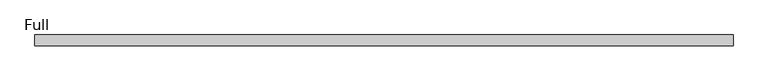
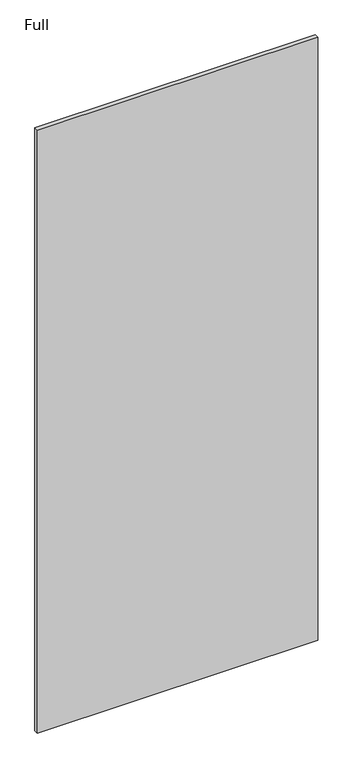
"""IFC4 building model written with IfcOpenShell, lengths in millimetres: proxy geometry, Panel-Fascia-Teknion-Altos-Standard : Full."""

from ifc_helpers import new_model, si_unit, frame, origin, place, context, project, spatial, polyline, outline, extrude, source, transform, mapped, element, save


def full_c2ac7fb8(model_context):
    return source(origin(), model_context, "Body", "SweptSolid", [
        extrude(outline(polyline([(624.8300781, -9.525), (-624.8300781, -9.525), (-624.8300781, 9.525), (624.8300781, 9.525), (624.8300781, -9.525)])), frame((0.0, 0.0, 3.175), z_axis=(0.0, 0.0, 1.0), x_axis=(1.0, 0.0, 0.0)), (0.0, 0.0, 1.0), 2840.736),
    ])


if __name__ == "__main__":
    model = new_model("IFC4")
    model_context = context("Model", 3, world=origin())
    ifc_project = project(units=[si_unit("LENGTHUNIT", "METRE", prefix="MILLI")], contexts=[model_context])
    site = spatial("IfcSite", under=ifc_project)
    building = spatial("IfcBuilding", under=site)
    placement = place(None, origin())
    full_shape = full_c2ac7fb8(model_context)
    element("IfcBuildingElementProxy", 1, Name="Panel-Fascia-Teknion-Altos-Standard : Full", ObjectType="Panel-Fascia-Teknion-Altos-Standard : Full", at=placement, inside=building, context=model_context, shape_type="MappedRepresentation", body=[
        mapped(full_shape, transform((0.0, 0.0, 0.0), x_axis=(1.0, 0.0, 0.0), y_axis=(0.0, 1.0, 0.0), z_axis=(0.0, 0.0, 1.0))),
    ])
    save(model, "model.ifc")
